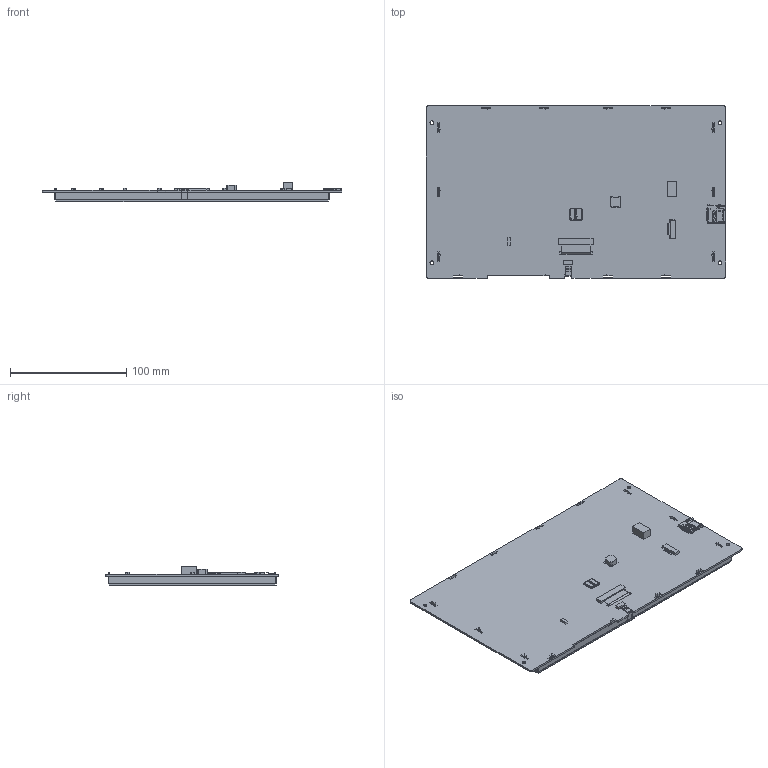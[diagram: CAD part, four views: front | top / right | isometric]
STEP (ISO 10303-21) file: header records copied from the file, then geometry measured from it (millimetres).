
FILE_DESCRIPTION(/* description */ (''),/* implementation_level */ '2;1');
FILE_NAME(/* name */ 'VTc101C34T.stp',/* time_stamp */ '2024-04-19T10:10:11+08:00',/* author */ (''),/* organization */ (''),/* preprocessor_version */ 'ST-DEVELOPER v16',/* originating_system */ 'SIEMENS PLM Software NX 10.0',/* authorisation */ '');
FILE_SCHEMA (('AP203_CONFIGURATION_CONTROLLED_3D_DESIGN_OF_MECHANICAL_PARTS_AND_ASSEMBLIES_MIM_LF { 1 0 10303 403 2 1 2}'));
Products named in the file (1): VTc101C34T
Bounding box: 257.8 x 148.1 x 16.71 mm (x, y, z)
Volume: 122350 mm3; surface area: 231028.6 mm2
Topology: 20 solids, 20 shells, 2406 faces, 6945 edges, 4568 vertices
Faces by surface type: plane 1933, cylinder 462, bspline 7, extrusion 3, cone 1
Full cylindrical faces by diameter (mm): 3.2 x4
Entity records: 80983 total; most frequent: CARTESIAN_POINT 14845, ORIENTED_EDGE 13882, DIRECTION 12454, EDGE_CURVE 6941, VECTOR 5868, LINE 5865, VERTEX_POINT 4568, AXIS2_PLACEMENT_3D 3293
